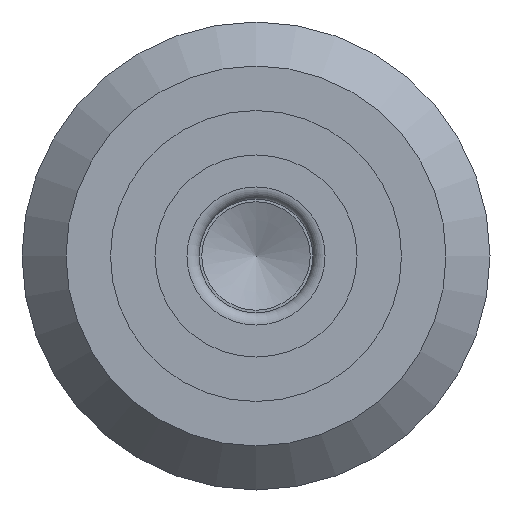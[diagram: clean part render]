
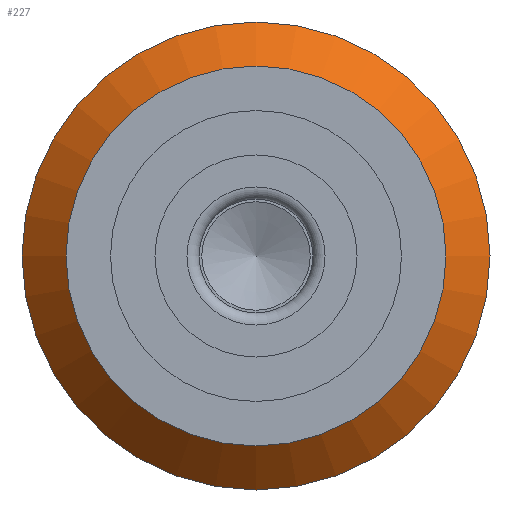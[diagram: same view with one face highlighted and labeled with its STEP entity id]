
A CAD part, left-side view. The second image highlights one B-rep face of the part: STEP entity #227.
In plain terms, the highlighted conical face has half-angle 45 degrees and reference radius 9.792 mm.
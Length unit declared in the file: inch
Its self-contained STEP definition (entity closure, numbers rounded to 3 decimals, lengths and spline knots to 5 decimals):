
#227 = ADVANCED_FACE( '', ( #473, #474 ), #475, .T. );
#473 = FACE_BOUND( '', #720, .T. );
#474 = FACE_OUTER_BOUND( '', #721, .T. );
#475 = CONICAL_SURFACE( '', #722, 0.3855, 0.785 );
#720 = EDGE_LOOP( '', ( #1101 ) );
#721 = EDGE_LOOP( '', ( #1102 ) );
#722 = AXIS2_PLACEMENT_3D( '', #1103, #1104, #1105 );
#1101 = ORIENTED_EDGE( '', *, *, #1214, .T. );
#1102 = ORIENTED_EDGE( '', *, *, #1285, .F. );
#1103 = CARTESIAN_POINT( '', ( -0.0825, 0., 0. ) );
#1104 = DIRECTION( '', ( 1., 0., 0. ) );
#1105 = DIRECTION( '', ( 0., 1., 0. ) );
#1214 = EDGE_CURVE( '', #1375, #1375, #1376, .T. );
#1285 = EDGE_CURVE( '', #1484, #1484, #1485, .T. );
#1375 = VERTEX_POINT( '', #1600 );
#1376 = CIRCLE( '', #1601, 0.313 );
#1484 = VERTEX_POINT( '', #1776 );
#1485 = CIRCLE( '', #1777, 0.3855 );
#1600 = CARTESIAN_POINT( '', ( -0.155, 0.313, 0. ) );
#1601 = AXIS2_PLACEMENT_3D( '', #1931, #1932, #1933 );
#1776 = CARTESIAN_POINT( '', ( -0.0825, 0.3855, 0. ) );
#1777 = AXIS2_PLACEMENT_3D( '', #2022, #2023, #2024 );
#1931 = CARTESIAN_POINT( '', ( -0.155, 0., 0. ) );
#1932 = DIRECTION( '', ( 1., 0., 0. ) );
#1933 = DIRECTION( '', ( 0., 1., 0. ) );
#2022 = CARTESIAN_POINT( '', ( -0.0825, 0., 0. ) );
#2023 = DIRECTION( '', ( 1., 0., 0. ) );
#2024 = DIRECTION( '', ( 0., 1., 0. ) );
